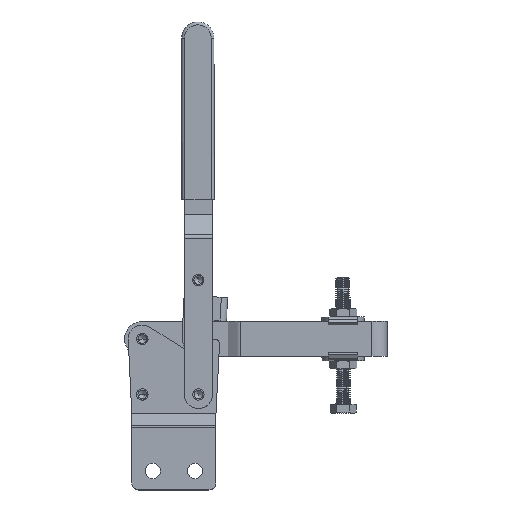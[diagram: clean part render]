
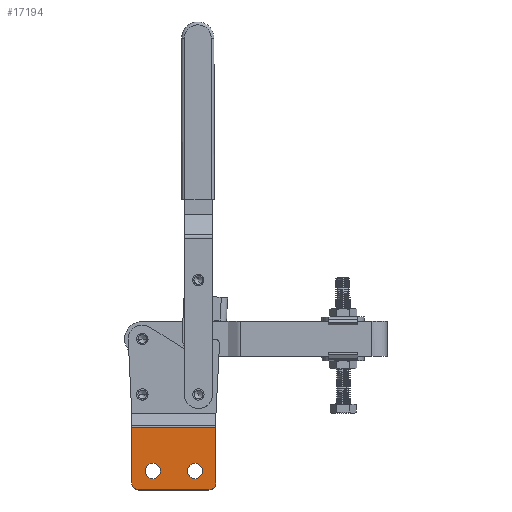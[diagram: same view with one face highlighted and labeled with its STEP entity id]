
A CAD part, top view. The second image highlights one B-rep face of the part: STEP entity #17194.
In plain terms, the highlighted planar face has unit normal (0, 0, 1).
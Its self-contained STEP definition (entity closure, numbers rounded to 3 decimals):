
#25 = DIRECTION ( 'NONE',  ( -1., 0., 0. ) ) ;
#149 = EDGE_CURVE ( 'NONE', #21475, #957, #1240, .T. ) ;
#205 = CARTESIAN_POINT ( 'NONE',  ( -23., -41., 24.5 ) ) ;
#957 = VERTEX_POINT ( 'NONE', #205 ) ;
#978 = CIRCLE ( 'NONE', #21435, 5.5 ) ;
#1114 = FACE_OUTER_BOUND ( 'NONE', #8099, .T. ) ;
#1158 = VERTEX_POINT ( 'NONE', #18338 ) ;
#1240 = CIRCLE ( 'NONE', #19294, 5.5 ) ;
#1390 = VECTOR ( 'NONE', #7805, 1000. ) ;
#1416 = DIRECTION ( 'NONE',  ( 0., 0., -1. ) ) ;
#1644 = DIRECTION ( 'NONE',  ( 1., 0., 0. ) ) ;
#1692 = EDGE_LOOP ( 'NONE', ( #9133, #13075 ) ) ;
#1762 = CIRCLE ( 'NONE', #14831, 5.5 ) ;
#2154 = DIRECTION ( 'NONE',  ( 1., 0., 0. ) ) ;
#2329 = ORIENTED_EDGE ( 'NONE', *, *, #22055, .F. ) ;
#3522 = CARTESIAN_POINT ( 'NONE',  ( -2.5, 0., 24.5 ) ) ;
#3587 = VECTOR ( 'NONE', #1644, 1000. ) ;
#3866 = VERTEX_POINT ( 'NONE', #20360 ) ;
#4349 = AXIS2_PLACEMENT_3D ( 'NONE', #18756, #8200, #20557 ) ;
#4429 = EDGE_CURVE ( 'NONE', #1158, #20870, #22713, .T. ) ;
#4616 = VECTOR ( 'NONE', #15919, 1000. ) ;
#4777 = VERTEX_POINT ( 'NONE', #9662 ) ;
#4917 = VERTEX_POINT ( 'NONE', #17134 ) ;
#6092 = AXIS2_PLACEMENT_3D ( 'NONE', #9700, #16883, #6274 ) ;
#6200 = CARTESIAN_POINT ( 'NONE',  ( -47.5, -41., 24.5 ) ) ;
#6274 = DIRECTION ( 'NONE',  ( 0., -1., 0. ) ) ;
#6881 = CARTESIAN_POINT ( 'NONE',  ( -65., -10.303, 24.5 ) ) ;
#7805 = DIRECTION ( 'NONE',  ( 0., 1., 0. ) ) ;
#7978 = DIRECTION ( 'NONE',  ( -1., 0., 0. ) ) ;
#8099 = EDGE_LOOP ( 'NONE', ( #16117, #2329, #16215, #9525, #16346, #21335 ) ) ;
#8200 = DIRECTION ( 'NONE',  ( 0., 0., -1. ) ) ;
#8323 = CARTESIAN_POINT ( 'NONE',  ( -47.5, -41., 24.5 ) ) ;
#8326 = EDGE_CURVE ( 'NONE', #1158, #15604, #17988, .T. ) ;
#8499 = EDGE_LOOP ( 'NONE', ( #9339, #18178 ) ) ;
#8792 = CARTESIAN_POINT ( 'NONE',  ( -62.5, -49.5, 24.5 ) ) ;
#8894 = CARTESIAN_POINT ( 'NONE',  ( -62.5, 0., 24.5 ) ) ;
#9133 = ORIENTED_EDGE ( 'NONE', *, *, #149, .T. ) ;
#9339 = ORIENTED_EDGE ( 'NONE', *, *, #21490, .T. ) ;
#9364 = EDGE_CURVE ( 'NONE', #15604, #13934, #20183, .T. ) ;
#9525 = ORIENTED_EDGE ( 'NONE', *, *, #21044, .F. ) ;
#9662 = CARTESIAN_POINT ( 'NONE',  ( -53., -41., 24.5 ) ) ;
#9700 = CARTESIAN_POINT ( 'NONE',  ( -65., -9.5, 24.5 ) ) ;
#9919 = LINE ( 'NONE', #3522, #4616 ) ;
#10136 = DIRECTION ( 'NONE',  ( -1., 0., 0. ) ) ;
#10222 = CARTESIAN_POINT ( 'NONE',  ( -17.5, -41., 24.5 ) ) ;
#10388 = EDGE_CURVE ( 'NONE', #3866, #4917, #9919, .T. ) ;
#10635 = DIRECTION ( 'NONE',  ( 0., 0., -1. ) ) ;
#10874 = VERTEX_POINT ( 'NONE', #15586 ) ;
#11870 = EDGE_CURVE ( 'NONE', #4777, #10874, #978, .T. ) ;
#12011 = DIRECTION ( 'NONE',  ( -1., 0., 0. ) ) ;
#12030 = CARTESIAN_POINT ( 'NONE',  ( -57.5, -49.5, 24.5 ) ) ;
#12487 = LINE ( 'NONE', #6881, #3587 ) ;
#12774 = CARTESIAN_POINT ( 'NONE',  ( -65., -54.5, 24.5 ) ) ;
#13075 = ORIENTED_EDGE ( 'NONE', *, *, #13477, .T. ) ;
#13477 = EDGE_CURVE ( 'NONE', #957, #21475, #1762, .T. ) ;
#13539 = AXIS2_PLACEMENT_3D ( 'NONE', #12030, #1416, #13804 ) ;
#13804 = DIRECTION ( 'NONE',  ( 0., -1., 0. ) ) ;
#13934 = VERTEX_POINT ( 'NONE', #15012 ) ;
#13942 = VECTOR ( 'NONE', #2154, 1000. ) ;
#14367 = CIRCLE ( 'NONE', #4349, 5. ) ;
#14831 = AXIS2_PLACEMENT_3D ( 'NONE', #10222, #22541, #12011 ) ;
#15012 = CARTESIAN_POINT ( 'NONE',  ( -62.5, -10.303, 24.5 ) ) ;
#15113 = PLANE ( 'NONE',  #6092 ) ;
#15586 = CARTESIAN_POINT ( 'NONE',  ( -42., -41., 24.5 ) ) ;
#15604 = VERTEX_POINT ( 'NONE', #8792 ) ;
#15798 = FACE_BOUND ( 'NONE', #1692, .T. ) ;
#15919 = DIRECTION ( 'NONE',  ( 0., -1., 0. ) ) ;
#16117 = ORIENTED_EDGE ( 'NONE', *, *, #4429, .T. ) ;
#16215 = ORIENTED_EDGE ( 'NONE', *, *, #10388, .F. ) ;
#16346 = ORIENTED_EDGE ( 'NONE', *, *, #9364, .F. ) ;
#16883 = DIRECTION ( 'NONE',  ( 0., 0., -1. ) ) ;
#17071 = CARTESIAN_POINT ( 'NONE',  ( -12., -41., 24.5 ) ) ;
#17117 = CIRCLE ( 'NONE', #22259, 5.5 ) ;
#17134 = CARTESIAN_POINT ( 'NONE',  ( -2.5, -49.5, 24.5 ) ) ;
#17194 = ADVANCED_FACE ( 'NONE', ( #20463, #15798, #1114 ), #15113, .F. ) ;
#17988 = CIRCLE ( 'NONE', #13539, 5. ) ;
#18178 = ORIENTED_EDGE ( 'NONE', *, *, #11870, .T. ) ;
#18338 = CARTESIAN_POINT ( 'NONE',  ( -57.5, -54.5, 24.5 ) ) ;
#18552 = DIRECTION ( 'NONE',  ( 0., 0., -1. ) ) ;
#18756 = CARTESIAN_POINT ( 'NONE',  ( -7.5, -49.5, 24.5 ) ) ;
#19294 = AXIS2_PLACEMENT_3D ( 'NONE', #21187, #10635, #25 ) ;
#20183 = LINE ( 'NONE', #8894, #1390 ) ;
#20360 = CARTESIAN_POINT ( 'NONE',  ( -2.5, -10.303, 24.5 ) ) ;
#20463 = FACE_BOUND ( 'NONE', #8499, .T. ) ;
#20557 = DIRECTION ( 'NONE',  ( 0., -1., 0. ) ) ;
#20675 = DIRECTION ( 'NONE',  ( 0., 0., -1. ) ) ;
#20870 = VERTEX_POINT ( 'NONE', #21865 ) ;
#21044 = EDGE_CURVE ( 'NONE', #13934, #3866, #12487, .T. ) ;
#21187 = CARTESIAN_POINT ( 'NONE',  ( -17.5, -41., 24.5 ) ) ;
#21335 = ORIENTED_EDGE ( 'NONE', *, *, #8326, .F. ) ;
#21435 = AXIS2_PLACEMENT_3D ( 'NONE', #6200, #18552, #7978 ) ;
#21475 = VERTEX_POINT ( 'NONE', #17071 ) ;
#21490 = EDGE_CURVE ( 'NONE', #10874, #4777, #17117, .T. ) ;
#21865 = CARTESIAN_POINT ( 'NONE',  ( -7.5, -54.5, 24.5 ) ) ;
#22055 = EDGE_CURVE ( 'NONE', #4917, #20870, #14367, .T. ) ;
#22259 = AXIS2_PLACEMENT_3D ( 'NONE', #8323, #20675, #10136 ) ;
#22541 = DIRECTION ( 'NONE',  ( 0., 0., -1. ) ) ;
#22713 = LINE ( 'NONE', #12774, #13942 ) ;
